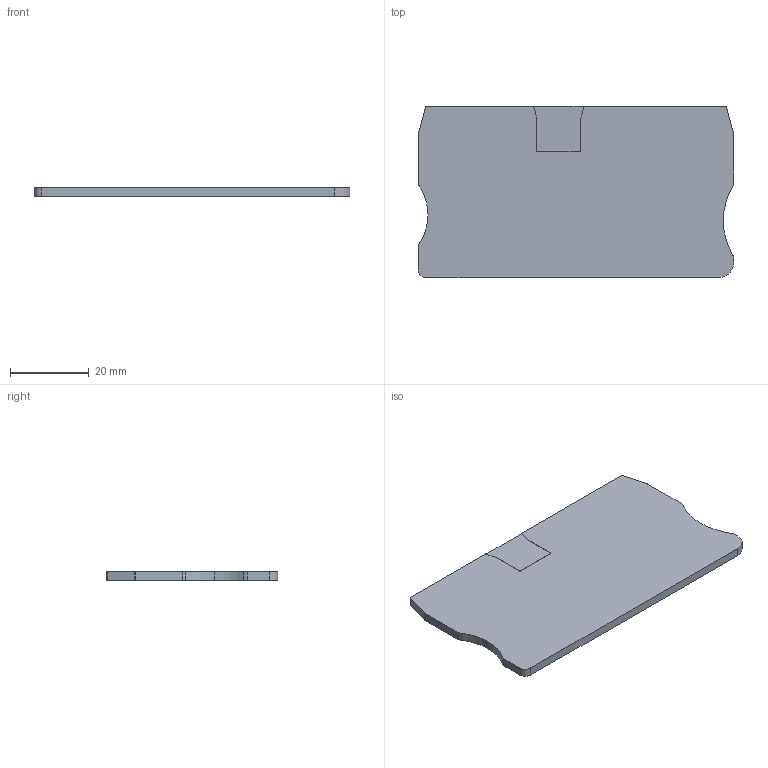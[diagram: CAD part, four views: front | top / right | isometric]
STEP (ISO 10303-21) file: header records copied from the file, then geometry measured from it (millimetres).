
FILE_DESCRIPTION(('SolidDesigner STEP Export'),'2;1');
FILE_NAME('3036657_d_st16_select.stp','2004-03-11T14:24:01',(''),(''),'OneSpaceDesigner STEP processor Version: 9.0 (March 2001)for AP203(Solid Model)','CoCreate OneSpaceDesigner: 11.50A 18-Jul-2002(C) CoCreate Software GmbH','');
FILE_SCHEMA(('CONFIG_CONTROL_DESIGN'));
Length unit declared in the file: millimetre
Products named in the file (2): 3036657_d_st16_select
Assembly tree (1 placements, depth 2):
  3036657_d_st16_select
    3036657_d_st16_select
Bounding box: 80.2 x 43.55 x 2.2 mm (x, y, z)
Volume: 7417.8 mm3; surface area: 7376.9 mm2
Topology: 1 solids, 1 shells, 40 faces, 114 edges, 76 vertices
Faces by surface type: plane 22, cylinder 18
Entity records: 1810 total; most frequent: ORIENTED_EDGE 228, CARTESIAN_POINT 224, DIRECTION 220, EDGE_CURVE 114, VECTOR 76, LINE 76, VERTEX_POINT 76, AXIS2_PLACEMENT_3D 72
